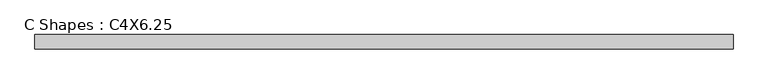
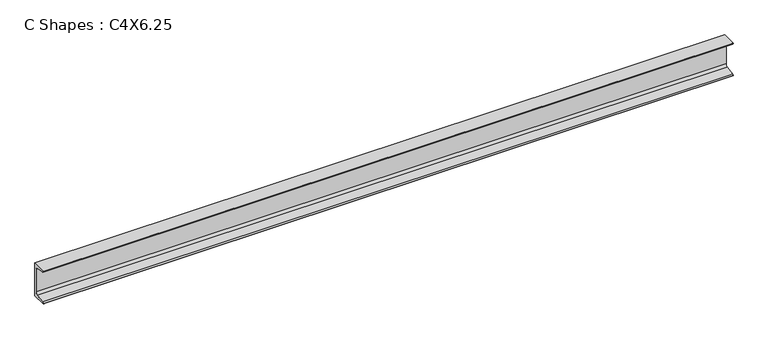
"""IFC4 building model written with IfcOpenShell, lengths in millimetres: beam geometry, C Shapes : C4X6.25."""

from ifc_helpers import new_model, si_unit, point, frame, frame_2d, origin, place, context, project, spatial, polyline, circle_curve, trimmed, segment, composite_curve, outline, extrude, source, transform, mapped, element, save


def c_shapes_c4x6_25_a23b8495(model_context):
    return source(origin(), model_context, "Body", "SweptSolid", [
        extrude(outline(composite_curve([segment(polyline([(11.049, 50.8), (11.049, -50.8), (-30.861, -50.8), (-30.861, -49.7865772)]), True, "CONTINUOUS"), segment(trimmed(circle_curve(frame_2d((-27.4066, -49.7865772)), 3.4544), [point((-30.861, -49.7865772))], [point((-27.9743618, -46.379155))], False, "CARTESIAN"), True, "CONTINUOUS"), segment(polyline([(-27.9743618, -46.379155), (-0.9980765, -41.8842311)]), True, "CONTINUOUS"), segment(trimmed(circle_curve(frame_2d((-2.1336, -35.0693868)), 6.9088), [point((-0.9980765, -41.8842311))], [point((4.7752, -35.0693868))], True, "CARTESIAN"), True, "CONTINUOUS"), segment(polyline([(4.7752, -35.0693868), (4.7752, 35.0693868)]), True, "CONTINUOUS"), segment(trimmed(circle_curve(frame_2d((-2.1336, 35.0693868)), 6.9088), [point((4.7752, 35.0693868))], [point((-0.9980765, 41.8842311))], True, "CARTESIAN"), True, "CONTINUOUS"), segment(polyline([(-0.9980765, 41.8842311), (-27.9743618, 46.379155)]), True, "CONTINUOUS"), segment(trimmed(circle_curve(frame_2d((-27.4066, 49.7865772)), 3.4544), [point((-27.9743618, 46.379155))], [point((-30.861, 49.7865772))], False, "CARTESIAN"), True, "CONTINUOUS"), segment(polyline([(-30.861, 49.7865772), (-30.861, 50.8), (11.049, 50.8)]), True, "CONTINUOUS")], self_intersect=False)), frame((-1008.5886429, 0.0, 0.0), z_axis=(1.0, 0.0, 0.0), x_axis=(0.0, 1.0, 0.0)), (0.0, 0.0, 1.0), 2017.1772857),
    ])


if __name__ == "__main__":
    model = new_model("IFC4")
    model_context = context("Model", 3, world=origin())
    ifc_project = project(units=[si_unit("LENGTHUNIT", "METRE", prefix="MILLI")], contexts=[model_context])
    site = spatial("IfcSite", under=ifc_project)
    building = spatial("IfcBuilding", under=site)
    placement = place(None, origin())
    c_shapes_c4x6_25_shape = c_shapes_c4x6_25_a23b8495(model_context)
    element("IfcBeam", 1, ObjectType="C Shapes : C4X6.25", at=placement, inside=building, context=model_context, shape_type="MappedRepresentation", body=[
        mapped(c_shapes_c4x6_25_shape, transform((0.0, 0.0, 0.0), x_axis=(1.0, 0.0, 0.0), y_axis=(0.0, 1.0, 0.0), z_axis=(0.0, 0.0, 1.0))),
    ])
    save(model, "model.ifc")
